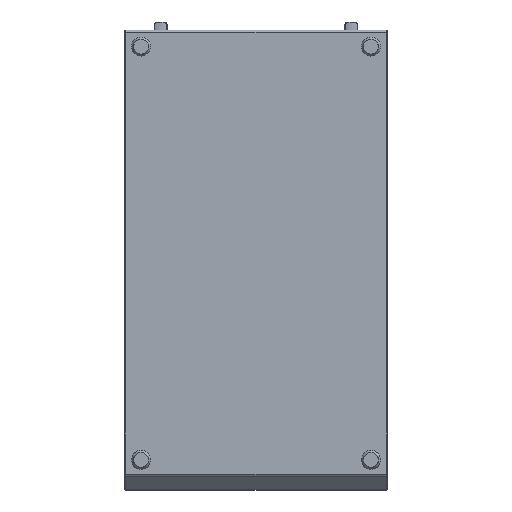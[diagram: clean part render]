
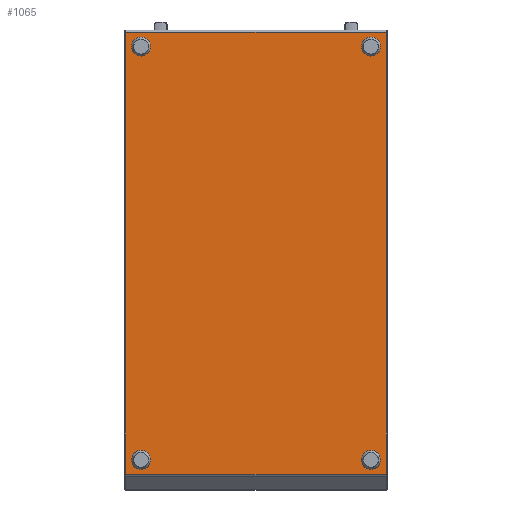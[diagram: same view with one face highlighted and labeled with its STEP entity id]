
A CAD part, front view. The second image highlights one B-rep face of the part: STEP entity #1065.
In plain terms, the highlighted planar face has unit normal (0, -1, 0).
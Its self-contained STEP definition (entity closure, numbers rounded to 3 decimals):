
#347 = CARTESIAN_POINT ( 'NONE',  ( 175., -180.153, 329.545 ) ) ;
#348 = CARTESIAN_POINT ( 'NONE',  ( 175., -180.153, 320.455 ) ) ;
#351 = CARTESIAN_POINT ( 'NONE',  ( -175., -180.153, 329.545 ) ) ;
#352 = CARTESIAN_POINT ( 'NONE',  ( -175., -180.153, 320.455 ) ) ;
#355 = CARTESIAN_POINT ( 'NONE',  ( 175., -180.153, -299.681 ) ) ;
#356 = CARTESIAN_POINT ( 'NONE',  ( 175., -180.153, -308.771 ) ) ;
#359 = CARTESIAN_POINT ( 'NONE',  ( -175., -180.153, -299.681 ) ) ;
#360 = CARTESIAN_POINT ( 'NONE',  ( -175., -180.153, -308.771 ) ) ;
#386 = VERTEX_POINT ( 'NONE', #360 ) ;
#387 = VERTEX_POINT ( 'NONE', #359 ) ;
#390 = VERTEX_POINT ( 'NONE', #356 ) ;
#391 = VERTEX_POINT ( 'NONE', #355 ) ;
#394 = VERTEX_POINT ( 'NONE', #352 ) ;
#395 = VERTEX_POINT ( 'NONE', #351 ) ;
#398 = VERTEX_POINT ( 'NONE', #348 ) ;
#399 = VERTEX_POINT ( 'NONE', #347 ) ;
#1065 = ADVANCED_FACE ( 'NONE', ( #9580, #9560, #9558, #9556, #9551 ), #2202, .F. ) ;
#2202 = PLANE ( 'NONE',  #9559 ) ;
#2203 = CARTESIAN_POINT ( 'NONE',  ( 922.81, -180.153, -325.726 ) ) ;
#2204 = DIRECTION ( 'NONE',  ( 0., 1., 0. ) ) ;
#2205 = DIRECTION ( 'NONE',  ( 0., 0., 1. ) ) ;
#2851 = VERTEX_POINT ( 'NONE', #13171 ) ;
#2852 = VERTEX_POINT ( 'NONE', #13172 ) ;
#2853 = VERTEX_POINT ( 'NONE', #13173 ) ;
#2856 = VERTEX_POINT ( 'NONE', #13176 ) ;
#3162 = EDGE_CURVE ( 'NONE', #387, #386, #11899, .T. ) ;
#3163 = EDGE_CURVE ( 'NONE', #391, #390, #11898, .T. ) ;
#3164 = EDGE_CURVE ( 'NONE', #395, #394, #11897, .T. ) ;
#3165 = EDGE_CURVE ( 'NONE', #399, #398, #11896, .T. ) ;
#3166 = EDGE_CURVE ( 'NONE', #2852, #2851, #13884, .T. ) ;
#3167 = EDGE_CURVE ( 'NONE', #2853, #2852, #13887, .T. ) ;
#3168 = EDGE_CURVE ( 'NONE', #2856, #2853, #13890, .T. ) ;
#3169 = EDGE_CURVE ( 'NONE', #2851, #2856, #13893, .T. ) ;
#4833 = CIRCLE ( 'NONE', #19261, 4.545 ) ;
#4835 = CIRCLE ( 'NONE', #19265, 4.545 ) ;
#4837 = CIRCLE ( 'NONE', #19269, 4.545 ) ;
#4839 = CIRCLE ( 'NONE', #19273, 4.545 ) ;
#5468 = ORIENTED_EDGE ( 'NONE', *, *, #3169, .F. ) ;
#5471 = ORIENTED_EDGE ( 'NONE', *, *, #3168, .F. ) ;
#5473 = ORIENTED_EDGE ( 'NONE', *, *, #3167, .F. ) ;
#5475 = ORIENTED_EDGE ( 'NONE', *, *, #3165, .F. ) ;
#5477 = ORIENTED_EDGE ( 'NONE', *, *, #10102, .F. ) ;
#5479 = ORIENTED_EDGE ( 'NONE', *, *, #3164, .F. ) ;
#5481 = ORIENTED_EDGE ( 'NONE', *, *, #10098, .F. ) ;
#5484 = ORIENTED_EDGE ( 'NONE', *, *, #3163, .F. ) ;
#5487 = ORIENTED_EDGE ( 'NONE', *, *, #10094, .F. ) ;
#5489 = ORIENTED_EDGE ( 'NONE', *, *, #3162, .F. ) ;
#5492 = ORIENTED_EDGE ( 'NONE', *, *, #10090, .F. ) ;
#5496 = ORIENTED_EDGE ( 'NONE', *, *, #3166, .F. ) ;
#8109 = EDGE_LOOP ( 'NONE', ( #5492, #5489 ) ) ;
#8110 = EDGE_LOOP ( 'NONE', ( #5487, #5484 ) ) ;
#8111 = EDGE_LOOP ( 'NONE', ( #5481, #5479 ) ) ;
#8112 = EDGE_LOOP ( 'NONE', ( #5477, #5475 ) ) ;
#8113 = EDGE_LOOP ( 'NONE', ( #5473, #5471, #5468, #5496 ) ) ;
#9551 = FACE_OUTER_BOUND ( 'NONE', #8113, .T. ) ;
#9556 = FACE_BOUND ( 'NONE', #8112, .T. ) ;
#9558 = FACE_BOUND ( 'NONE', #8111, .T. ) ;
#9559 = AXIS2_PLACEMENT_3D ( 'NONE', #2203, #2204, #2205 ) ;
#9560 = FACE_BOUND ( 'NONE', #8110, .T. ) ;
#9580 = FACE_BOUND ( 'NONE', #8109, .T. ) ;
#10004 = VECTOR ( 'NONE', #13895, 1000. ) ;
#10007 = VECTOR ( 'NONE', #13892, 1000. ) ;
#10009 = VECTOR ( 'NONE', #13889, 1000. ) ;
#10010 = VECTOR ( 'NONE', #13886, 1000. ) ;
#10012 = AXIS2_PLACEMENT_3D ( 'NONE', #13880, #13881, #13882 ) ;
#10014 = AXIS2_PLACEMENT_3D ( 'NONE', #13877, #13878, #13879 ) ;
#10016 = AXIS2_PLACEMENT_3D ( 'NONE', #13874, #13875, #13876 ) ;
#10020 = AXIS2_PLACEMENT_3D ( 'NONE', #13871, #13872, #13873 ) ;
#10090 = EDGE_CURVE ( 'NONE', #386, #387, #4833, .T. ) ;
#10094 = EDGE_CURVE ( 'NONE', #390, #391, #4835, .T. ) ;
#10098 = EDGE_CURVE ( 'NONE', #394, #395, #4837, .T. ) ;
#10102 = EDGE_CURVE ( 'NONE', #398, #399, #4839, .T. ) ;
#11896 = CIRCLE ( 'NONE', #10012, 4.545 ) ;
#11897 = CIRCLE ( 'NONE', #10014, 4.545 ) ;
#11898 = CIRCLE ( 'NONE', #10016, 4.545 ) ;
#11899 = CIRCLE ( 'NONE', #10020, 4.545 ) ;
#13171 = CARTESIAN_POINT ( 'NONE',  ( 198.5, -180.153, 346.5 ) ) ;
#13172 = CARTESIAN_POINT ( 'NONE',  ( -198.5, -180.153, 346.5 ) ) ;
#13173 = CARTESIAN_POINT ( 'NONE',  ( -198.5, -180.153, -325.726 ) ) ;
#13176 = CARTESIAN_POINT ( 'NONE',  ( 198.5, -180.153, -325.726 ) ) ;
#13871 = CARTESIAN_POINT ( 'NONE',  ( -175., -180.153, -304.226 ) ) ;
#13872 = DIRECTION ( 'NONE',  ( 0., -1., 0. ) ) ;
#13873 = DIRECTION ( 'NONE',  ( 0., 0., -1. ) ) ;
#13874 = CARTESIAN_POINT ( 'NONE',  ( 175., -180.153, -304.226 ) ) ;
#13875 = DIRECTION ( 'NONE',  ( 0., -1., 0. ) ) ;
#13876 = DIRECTION ( 'NONE',  ( 0., 0., -1. ) ) ;
#13877 = CARTESIAN_POINT ( 'NONE',  ( -175., -180.153, 325. ) ) ;
#13878 = DIRECTION ( 'NONE',  ( 0., -1., 0. ) ) ;
#13879 = DIRECTION ( 'NONE',  ( 0., 0., -1. ) ) ;
#13880 = CARTESIAN_POINT ( 'NONE',  ( 175., -180.153, 325. ) ) ;
#13881 = DIRECTION ( 'NONE',  ( 0., -1., 0. ) ) ;
#13882 = DIRECTION ( 'NONE',  ( 0., 0., -1. ) ) ;
#13884 = LINE ( 'NONE', #13885, #10010 ) ;
#13885 = CARTESIAN_POINT ( 'NONE',  ( 922.81, -180.153, 346.5 ) ) ;
#13886 = DIRECTION ( 'NONE',  ( 1., 0., 0. ) ) ;
#13887 = LINE ( 'NONE', #13888, #10009 ) ;
#13888 = CARTESIAN_POINT ( 'NONE',  ( -198.5, -180.153, -325.726 ) ) ;
#13889 = DIRECTION ( 'NONE',  ( 0., 0., 1. ) ) ;
#13890 = LINE ( 'NONE', #13891, #10007 ) ;
#13891 = CARTESIAN_POINT ( 'NONE',  ( 922.81, -180.153, -325.726 ) ) ;
#13892 = DIRECTION ( 'NONE',  ( -1., 0., 0. ) ) ;
#13893 = LINE ( 'NONE', #13894, #10004 ) ;
#13894 = CARTESIAN_POINT ( 'NONE',  ( 198.5, -180.153, -325.726 ) ) ;
#13895 = DIRECTION ( 'NONE',  ( 0., 0., -1. ) ) ;
#19261 = AXIS2_PLACEMENT_3D ( 'NONE', #19957, #19961, #19962 ) ;
#19265 = AXIS2_PLACEMENT_3D ( 'NONE', #19966, #19973, #19974 ) ;
#19269 = AXIS2_PLACEMENT_3D ( 'NONE', #19978, #19985, #19986 ) ;
#19273 = AXIS2_PLACEMENT_3D ( 'NONE', #19990, #19997, #19998 ) ;
#19957 = CARTESIAN_POINT ( 'NONE',  ( -175., -180.153, -304.226 ) ) ;
#19961 = DIRECTION ( 'NONE',  ( 0., -1., 0. ) ) ;
#19962 = DIRECTION ( 'NONE',  ( 0., 0., -1. ) ) ;
#19966 = CARTESIAN_POINT ( 'NONE',  ( 175., -180.153, -304.226 ) ) ;
#19973 = DIRECTION ( 'NONE',  ( 0., -1., 0. ) ) ;
#19974 = DIRECTION ( 'NONE',  ( 0., 0., -1. ) ) ;
#19978 = CARTESIAN_POINT ( 'NONE',  ( -175., -180.153, 325. ) ) ;
#19985 = DIRECTION ( 'NONE',  ( 0., -1., 0. ) ) ;
#19986 = DIRECTION ( 'NONE',  ( 0., 0., -1. ) ) ;
#19990 = CARTESIAN_POINT ( 'NONE',  ( 175., -180.153, 325. ) ) ;
#19997 = DIRECTION ( 'NONE',  ( 0., -1., 0. ) ) ;
#19998 = DIRECTION ( 'NONE',  ( 0., 0., -1. ) ) ;
